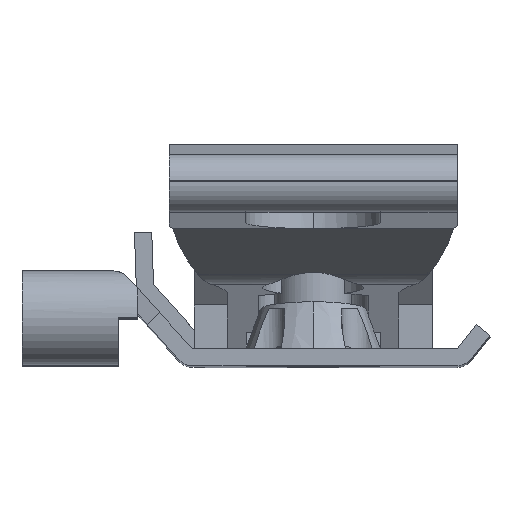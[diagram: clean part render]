
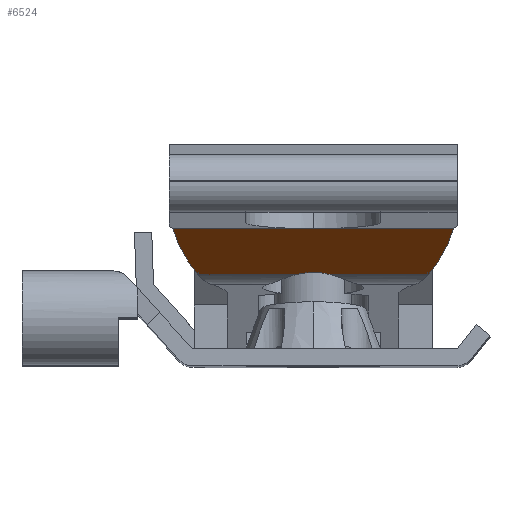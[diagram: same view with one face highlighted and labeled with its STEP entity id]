
A CAD part, top view. The second image highlights one B-rep face of the part: STEP entity #6524.
In plain terms, the highlighted planar face has unit normal (0, -0.79, 0.613).
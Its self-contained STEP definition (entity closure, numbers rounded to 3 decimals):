
#1181 = CARTESIAN_POINT ( 'NONE',  ( 29.028, 9.28, 22.43 ) ) ;
#1460 = CARTESIAN_POINT ( 'NONE',  ( 15.3, 9.28, 22.43 ) ) ;
#1464 = LINE ( 'NONE', #1460, #1870 ) ;
#1468 = DIRECTION ( 'NONE',  ( 1., 0., 0. ) ) ;
#1483 = LINE ( 'NONE', #1484, #1877 ) ;
#1484 = CARTESIAN_POINT ( 'NONE',  ( 15.3, 4.492, 16.255 ) ) ;
#1485 = DIRECTION ( 'NONE',  ( 1., 0., 0. ) ) ;
#1735 = CARTESIAN_POINT ( 'NONE',  ( 32.053, 4.492, 16.255 ) ) ;
#1743 = CARTESIAN_POINT ( 'NONE',  ( 31.572, 9.28, 22.43 ) ) ;
#1753 = CARTESIAN_POINT ( 'NONE',  ( 44.899, 9.28, 22.43 ) ) ;
#1755 = CARTESIAN_POINT ( 'NONE',  ( 42.29, 4.492, 16.255 ) ) ;
#1870 = VECTOR ( 'NONE', #1468, 1000. ) ;
#1877 = VECTOR ( 'NONE', #1485, 1000. ) ;
#2215 =( BOUNDED_CURVE ( )  B_SPLINE_CURVE ( 3, ( #6140, #6142, #6151, #6153 ),
 .UNSPECIFIED., .F., .T. ) 
 B_SPLINE_CURVE_WITH_KNOTS ( ( 4, 4 ),
 ( 5.943, 6.624 ),
 .UNSPECIFIED. ) 
 CURVE ( )  GEOMETRIC_REPRESENTATION_ITEM ( )  RATIONAL_B_SPLINE_CURVE ( ( 1., 0.962, 0.962, 1. ) ) 
 REPRESENTATION_ITEM ( '' )  );
#2216 =( BOUNDED_CURVE ( )  B_SPLINE_CURVE ( 3, ( #6157, #6134, #6168, #6170 ),
 .UNSPECIFIED., .F., .T. ) 
 B_SPLINE_CURVE_WITH_KNOTS ( ( 4, 4 ),
 ( 4.157, 4.512 ),
 .UNSPECIFIED. ) 
 CURVE ( )  GEOMETRIC_REPRESENTATION_ITEM ( )  RATIONAL_B_SPLINE_CURVE ( ( 1., 0.99, 0.99, 1. ) ) 
 REPRESENTATION_ITEM ( '' )  );
#2217 =( BOUNDED_CURVE ( )  B_SPLINE_CURVE ( 3, ( #6175, #6163, #6185, #6187 ),
 .UNSPECIFIED., .F., .T. ) 
 B_SPLINE_CURVE_WITH_KNOTS ( ( 4, 4 ),
 ( 1.771, 2.127 ),
 .UNSPECIFIED. ) 
 CURVE ( )  GEOMETRIC_REPRESENTATION_ITEM ( )  RATIONAL_B_SPLINE_CURVE ( ( 1., 0.99, 0.99, 1. ) ) 
 REPRESENTATION_ITEM ( '' )  );
#2991 = CARTESIAN_POINT ( 'NONE',  ( 18.31, 4.492, 16.255 ) ) ;
#3004 = CARTESIAN_POINT ( 'NONE',  ( 28.547, 4.492, 16.255 ) ) ;
#3010 = CARTESIAN_POINT ( 'NONE',  ( 15.701, 9.28, 22.43 ) ) ;
#3466 = ORIENTED_EDGE ( 'NONE', *, *, #7731, .T. ) ;
#3467 = ORIENTED_EDGE ( 'NONE', *, *, #6573, .T. ) ;
#3468 = ORIENTED_EDGE ( 'NONE', *, *, #6575, .T. ) ;
#3469 = ORIENTED_EDGE ( 'NONE', *, *, #6578, .T. ) ;
#3470 = ORIENTED_EDGE ( 'NONE', *, *, #6569, .F. ) ;
#3471 = ORIENTED_EDGE ( 'NONE', *, *, #6580, .F. ) ;
#3472 = ORIENTED_EDGE ( 'NONE', *, *, #7728, .F. ) ;
#3473 = ORIENTED_EDGE ( 'NONE', *, *, #6582, .T. ) ;
#5910 = CARTESIAN_POINT ( 'NONE',  ( 15.3, 4.492, 16.255 ) ) ;
#5919 = FACE_OUTER_BOUND ( 'NONE', #8057, .T. ) ;
#5921 = PLANE ( 'NONE',  #6233 ) ;
#5925 = DIRECTION ( 'NONE',  ( 0., 0.79, -0.613 ) ) ;
#5927 = DIRECTION ( 'NONE',  ( 0., -0.613, -0.79 ) ) ;
#6116 = CARTESIAN_POINT ( 'NONE',  ( 15.3, 9.28, 22.43 ) ) ;
#6122 = LINE ( 'NONE', #6155, #6289 ) ;
#6126 = LINE ( 'NONE', #6116, #6280 ) ;
#6134 = CARTESIAN_POINT ( 'NONE',  ( 43.546, 5.966, 18.156 ) ) ;
#6136 = DIRECTION ( 'NONE',  ( 1., 0., 0. ) ) ;
#6140 = CARTESIAN_POINT ( 'NONE',  ( 28.547, 4.492, 16.255 ) ) ;
#6142 = CARTESIAN_POINT ( 'NONE',  ( 29.692, 4.788, 16.636 ) ) ;
#6151 = CARTESIAN_POINT ( 'NONE',  ( 30.908, 4.788, 16.636 ) ) ;
#6153 = CARTESIAN_POINT ( 'NONE',  ( 32.053, 4.492, 16.255 ) ) ;
#6155 = CARTESIAN_POINT ( 'NONE',  ( 15.3, 4.492, 16.255 ) ) ;
#6157 = CARTESIAN_POINT ( 'NONE',  ( 42.29, 4.492, 16.255 ) ) ;
#6161 = DIRECTION ( 'NONE',  ( 1., 0., 0. ) ) ;
#6163 = CARTESIAN_POINT ( 'NONE',  ( 16.175, 7.579, 20.236 ) ) ;
#6168 = CARTESIAN_POINT ( 'NONE',  ( 44.425, 7.579, 20.236 ) ) ;
#6170 = CARTESIAN_POINT ( 'NONE',  ( 44.899, 9.28, 22.43 ) ) ;
#6172 = LINE ( 'NONE', #6177, #6287 ) ;
#6175 = CARTESIAN_POINT ( 'NONE',  ( 15.701, 9.28, 22.43 ) ) ;
#6177 = CARTESIAN_POINT ( 'NONE',  ( 15.3, 9.28, 22.43 ) ) ;
#6179 = DIRECTION ( 'NONE',  ( 1., 0., 0. ) ) ;
#6185 = CARTESIAN_POINT ( 'NONE',  ( 17.054, 5.966, 18.156 ) ) ;
#6187 = CARTESIAN_POINT ( 'NONE',  ( 18.31, 4.492, 16.255 ) ) ;
#6233 = AXIS2_PLACEMENT_3D ( 'NONE', #5910, #5925, #5927 ) ;
#6280 = VECTOR ( 'NONE', #6136, 1000. ) ;
#6287 = VECTOR ( 'NONE', #6179, 1000. ) ;
#6289 = VECTOR ( 'NONE', #6161, 1000. ) ;
#6524 = ADVANCED_FACE ( 'NONE', ( #5919 ), #5921, .F. ) ;
#6569 = EDGE_CURVE ( 'NONE', #8251, #8261, #6126, .T. ) ;
#6573 = EDGE_CURVE ( 'NONE', #8506, #8243, #2215, .T. ) ;
#6575 = EDGE_CURVE ( 'NONE', #8243, #8263, #6122, .T. ) ;
#6578 = EDGE_CURVE ( 'NONE', #8263, #8261, #2216, .T. ) ;
#6580 = EDGE_CURVE ( 'NONE', #7511, #8251, #6172, .T. ) ;
#6582 = EDGE_CURVE ( 'NONE', #8512, #8493, #2217, .T. ) ;
#7511 = VERTEX_POINT ( 'NONE', #1181 ) ;
#7728 = EDGE_CURVE ( 'NONE', #8512, #7511, #1464, .T. ) ;
#7731 = EDGE_CURVE ( 'NONE', #8493, #8506, #1483, .T. ) ;
#8057 = EDGE_LOOP ( 'NONE', ( #3466, #3467, #3468, #3469, #3470, #3471, #3472, #3473 ) ) ;
#8243 = VERTEX_POINT ( 'NONE', #1735 ) ;
#8251 = VERTEX_POINT ( 'NONE', #1743 ) ;
#8261 = VERTEX_POINT ( 'NONE', #1753 ) ;
#8263 = VERTEX_POINT ( 'NONE', #1755 ) ;
#8493 = VERTEX_POINT ( 'NONE', #2991 ) ;
#8506 = VERTEX_POINT ( 'NONE', #3004 ) ;
#8512 = VERTEX_POINT ( 'NONE', #3010 ) ;
